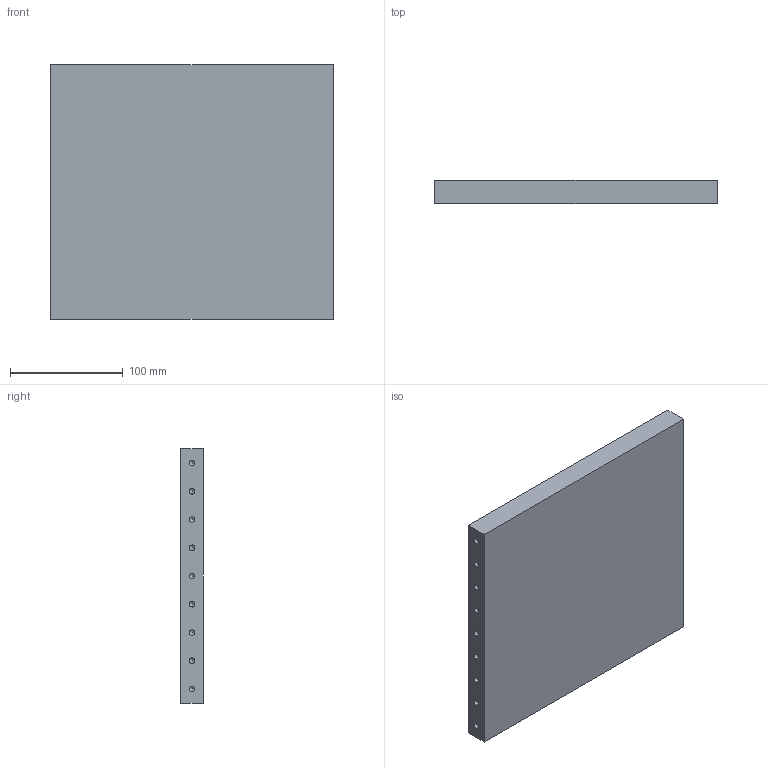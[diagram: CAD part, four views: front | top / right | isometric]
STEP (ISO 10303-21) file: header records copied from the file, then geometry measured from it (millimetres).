
FILE_DESCRIPTION(/* description */ (''),/* implementation_level */ '2;1');
FILE_NAME(/* name */ 'C:\Users\strothej\Documents\ActualDocuments\MicroscopeParts\TwoPhotonSystem\ScanningMechanics\v30\Drawings\Support_Shear_Plate.stp',/* time_stamp */ '2017-07-03T13:41:34-07:00',/* author */ ('strothej'),/* organization */ (''),/* preprocessor_version */ 'ST-DEVELOPER v16.1',/* originating_system */ 'Autodesk Inventor 2016',/* authorisation */ '');
FILE_SCHEMA (('AUTOMOTIVE_DESIGN { 1 0 10303 214 3 1 1 }'));
Length unit declared in the file: millimetre
Products named in the file (1): Support_Shear_Plate
Bounding box: 250 x 20 x 225 mm (x, y, z)
Volume: 1115989.8 mm3; surface area: 139123.5 mm2
Topology: 1 solids, 1 shells, 68 faces, 167 edges, 101 vertices
Faces by surface type: cone 31, cylinder 31, plane 6
Full cylindrical faces by diameter (mm): 4.134 x13, 4.917 x18
Entity records: 1420 total; most frequent: DIRECTION 274, CARTESIAN_POINT 213, ORIENTED_EDGE 148, AXIS2_PLACEMENT_3D 131, EDGE_LOOP 130, EDGE_CURVE 74, VERTEX_POINT 70, FACE_OUTER_BOUND 68
